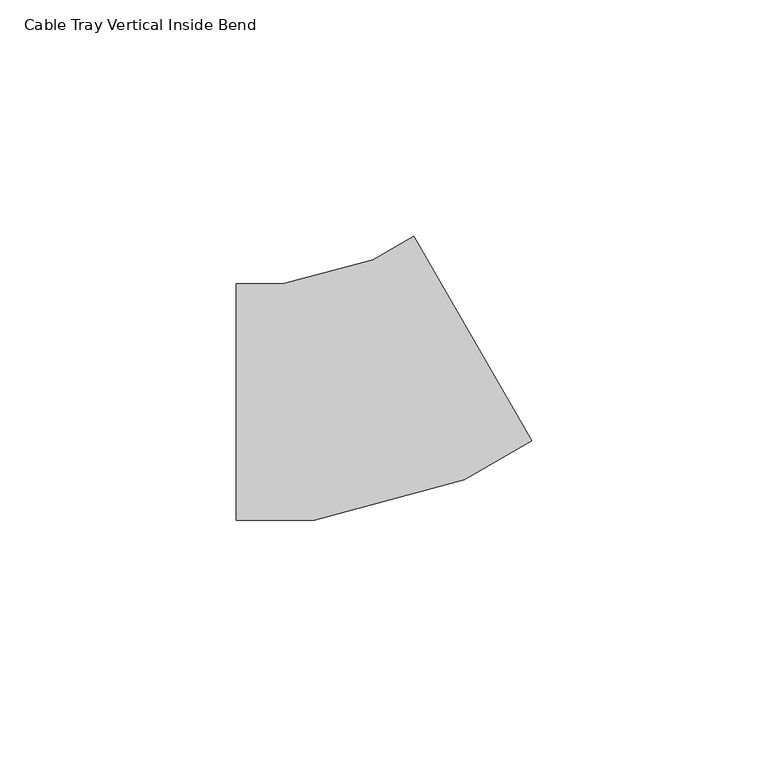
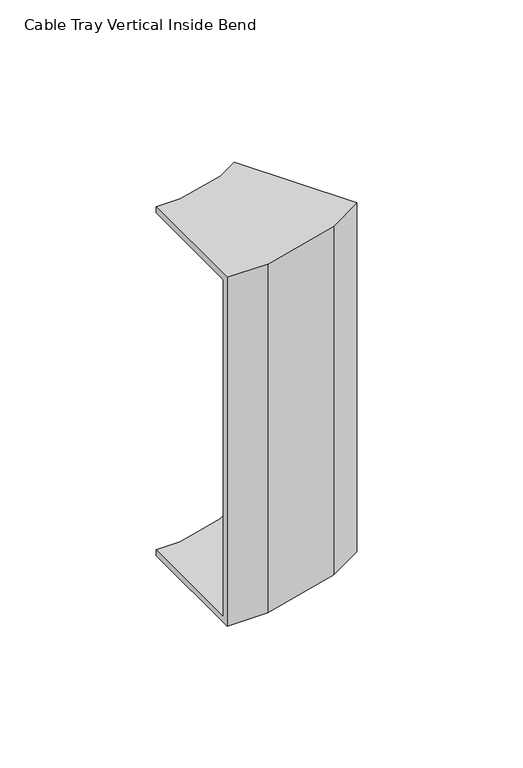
"""IFC4 building model written with IfcOpenShell, lengths in millimetres: cable carrier fitting geometry, Cable Tray Vertical Inside Bend : ELEC_ELV_CT_N2402."""

from ifc_helpers import new_model, si_unit, origin, place, context, project, spatial, faceted_brep, source, transform, mapped, element, save


def cable_tray_vertical_inside_bend_842d2f61(model_context):
    return source(origin(), model_context, "Body", "Brep", [
        faceted_brep([(-26.7947595, 25.0, 75.0), (-26.7947595, 25.0, 72.46), (-26.7947595, -22.46, 72.46), (-26.7947595, -22.46, -72.46), (-26.7947595, 25.0, -72.46), (-26.7947595, 25.0, -75.0), (-26.7947595, -25.0, -75.0), (-26.7947595, -25.0, 75.0), (10.7050469, 35.047983, 75.0), (35.7049178, -8.2533617, 75.0), (35.7049178, -8.2533617, -75.0), (10.7050469, 35.047983, -75.0), (10.7050469, 35.047983, -72.46), (34.4349244, -6.0536534, -72.46), (34.4349244, -6.0536534, 72.46), (10.7050469, 35.047983, 72.46), (-16.9208791, 25.0, 75.0), (-16.9208791, 25.0, 72.46), (2.1540009, 30.1110682, 72.46), (20.4727764, -14.1146478, 72.46), (-10.6726875, -22.46, 72.46), (-10.6726875, -22.46, -72.46), (20.4727764, -14.1146478, -72.46), (2.1540009, 30.1110682, -72.46), (-16.9208791, 25.0, -72.46), (-16.9208791, 25.0, -75.0), (2.1540009, 30.1110682, -75.0), (21.4531745, -16.481553, -75.0), (-10.3382921, -25.0, -75.0), (-10.3382921, -25.0, 75.0), (21.4531745, -16.481553, 75.0), (2.1540009, 30.1110682, 75.0)], [[[0, 1, 2, 3, 4, 5, 6, 7]], [[8, 9, 10, 11, 12, 13, 14, 15]], [[1, 0, 16, 17]], [[2, 1, 17, 18, 15, 14, 19, 20]], [[3, 2, 20, 21]], [[4, 3, 21, 22, 13, 12, 23, 24]], [[5, 4, 24, 25]], [[6, 5, 25, 26, 11, 10, 27, 28]], [[7, 6, 28, 29]], [[0, 7, 29, 30, 9, 8, 31, 16]], [[17, 16, 31, 18]], [[21, 20, 19, 22]], [[25, 24, 23, 26]], [[29, 28, 27, 30]], [[18, 31, 8, 15]], [[22, 19, 14, 13]], [[26, 23, 12, 11]], [[30, 27, 10, 9]]]),
    ])


if __name__ == "__main__":
    model = new_model("IFC4")
    model_context = context("Model", 3, world=origin())
    ifc_project = project(units=[si_unit("LENGTHUNIT", "METRE", prefix="MILLI")], contexts=[model_context])
    site = spatial("IfcSite", under=ifc_project)
    building = spatial("IfcBuilding", under=site)
    placement = place(None, origin())
    cable_tray_vertical_inside_bend_shape = cable_tray_vertical_inside_bend_842d2f61(model_context)
    element("IfcCableCarrierFitting", 1, ObjectType="Cable Tray Vertical Inside Bend : ELEC_ELV_CT_N2402", at=placement, inside=building, context=model_context, shape_type="MappedRepresentation", body=[
        mapped(cable_tray_vertical_inside_bend_shape, transform((0.0, 0.0, 0.0), x_axis=(1.0, 0.0, 0.0), y_axis=(0.0, 1.0, 0.0), z_axis=(0.0, 0.0, 1.0))),
    ])
    save(model, "model.ifc")
